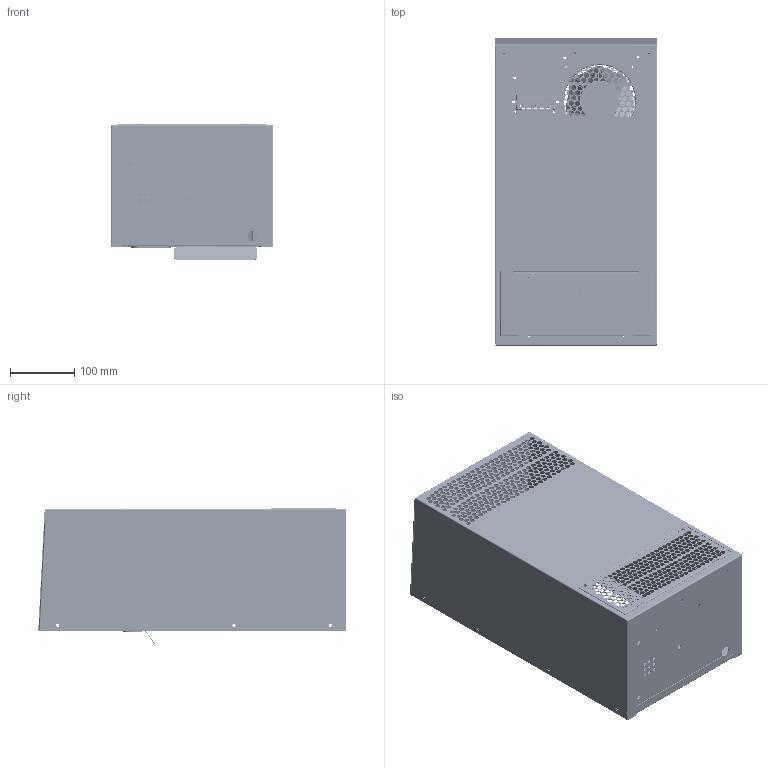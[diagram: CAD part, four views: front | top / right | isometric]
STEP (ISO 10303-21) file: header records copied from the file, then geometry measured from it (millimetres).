
FILE_DESCRIPTION((''),'2;1');
FILE_NAME('SCE-AC1000B230VSS_ASM','2017-05-25T',('dougp'),('SAGINAW CONTROL & ENGINEERING'),'PRO/ENGINEER BY PARAMETRIC TECHNOLOGY CORPORATION, 2012070','PRO/ENGINEER BY PARAMETRIC TECHNOLOGY CORPORATION, 2012070','');
FILE_SCHEMA(('AUTOMOTIVE_DESIGN { 1 0 10303 214 1 1 1 1 }'));
Products named in the file (16): OC5704_COVER_1; OC5704_FILTER_COVER_1; OC-5704_HOUSING_1; OC-5704_BASE_1; ADDA_AA1282HB-AT_CF-A_1; OC5704_INT_BLWR_BRKT_1; OC5704_INT_BLOWER_MANUF_ASSY_AS_ASM; OC5704_INT_BLOWER_ASM_1_ASM; CAREL_PJEZS0GB00_1; OC5704_CONNECTOR_BRACKET_1; 072106080019_1; POPNUT_M6_HEX_CLOSED_1; POPNUT_M4_HEX_OPEN_STEEL_1; OC5704_DEFLECTOR_1; STEP_FILE_ASM_1_ASM; SCE-AC1000B230VSS_ASM
Assembly tree (24 placements, depth 5):
  SCE-AC1000B230VSS_ASM
    STEP_FILE_ASM_1_ASM
      OC5704_COVER_1
      OC5704_FILTER_COVER_1
      OC-5704_HOUSING_1
      OC-5704_BASE_1
      OC5704_INT_BLOWER_ASM_1_ASM
        ADDA_AA1282HB-AT_CF-A_1
        OC5704_INT_BLOWER_MANUF_ASSY_AS_ASM
          OC5704_INT_BLWR_BRKT_1
      CAREL_PJEZS0GB00_1
      OC5704_CONNECTOR_BRACKET_1
      072106080019_1
      POPNUT_M6_HEX_CLOSED_1  x7
      POPNUT_M4_HEX_OPEN_STEEL_1  x4
      OC5704_DEFLECTOR_1
Bounding box: 254 x 480.67 x 212.05 mm (x, y, z)
Volume: 1016928.1 mm3; surface area: 1462709.1 mm2
Topology: 21 solids, 32 shells, 3203 faces, 8876 edges, 5770 vertices
Faces by surface type: cylinder 1528, plane 1511, cone 74, bspline 61, torus 29
Entity records: 100910 total; most frequent: CARTESIAN_POINT 19996, DIRECTION 16766, ORIENTED_EDGE 16276, EDGE_CURVE 8142, AXIS2_PLACEMENT_3D 5915, VERTEX_POINT 5314, VECTOR 4936, LINE 4936
